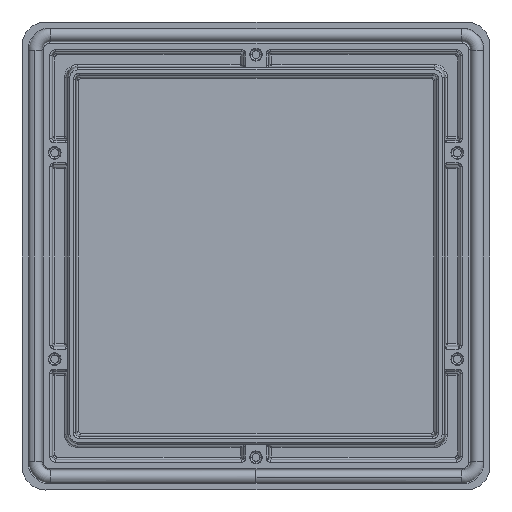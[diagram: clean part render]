
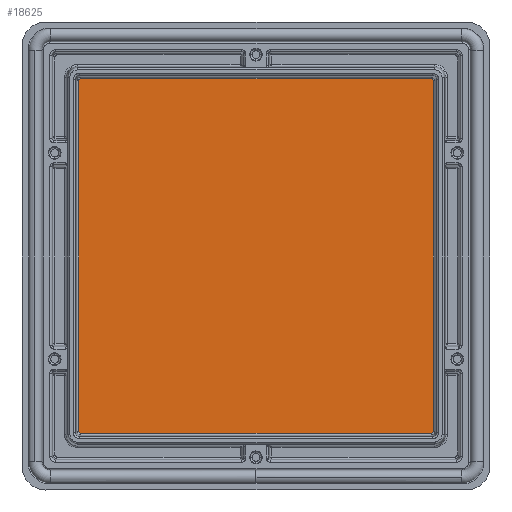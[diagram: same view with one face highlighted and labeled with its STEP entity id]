
A CAD part, front view. The second image highlights one B-rep face of the part: STEP entity #18625.
In plain terms, the highlighted planar face has unit normal (0, -1, 0).
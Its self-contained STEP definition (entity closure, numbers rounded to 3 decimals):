
#8 = CARTESIAN_POINT ( 'NONE',  ( 14.563, 6.5, -103.621 ) ) ;
#448 = CARTESIAN_POINT ( 'NONE',  ( 103.176, 6.5, -14.325 ) ) ;
#737 = DIRECTION ( 'NONE',  ( 0., 0., 1. ) ) ;
#743 = CARTESIAN_POINT ( 'NONE',  ( 14.824, 6.5, -14.325 ) ) ;
#826 = VERTEX_POINT ( 'NONE', #16742 ) ;
#874 = CARTESIAN_POINT ( 'NONE',  ( 14.657, 6.5, -14.353 ) ) ;
#875 = CARTESIAN_POINT ( 'NONE',  ( 103.574, 6.5, -14.521 ) ) ;
#956 = CARTESIAN_POINT ( 'NONE',  ( 7.025, 6.5, -7.025 ) ) ;
#1137 = VECTOR ( 'NONE', #737, 1000. ) ;
#1405 = VERTEX_POINT ( 'NONE', #5824 ) ;
#1461 = CARTESIAN_POINT ( 'NONE',  ( 14.325, 6.5, -103.307 ) ) ;
#1619 = LINE ( 'NONE', #11067, #1137 ) ;
#1678 = FACE_OUTER_BOUND ( 'NONE', #12616, .T. ) ;
#2100 = VERTEX_POINT ( 'NONE', #9511 ) ;
#2282 = CARTESIAN_POINT ( 'NONE',  ( 103.675, 6.5, -14.792 ) ) ;
#2342 = DIRECTION ( 'NONE',  ( 1., 0., 0. ) ) ;
#2358 = CARTESIAN_POINT ( 'NONE',  ( 14.577, 6.5, -14.389 ) ) ;
#2359 = CARTESIAN_POINT ( 'NONE',  ( 103.504, 6.5, -14.446 ) ) ;
#2439 = DIRECTION ( 'NONE',  ( 0., 0., 1. ) ) ;
#3563 = EDGE_CURVE ( 'NONE', #826, #2100, #4912, .T. ) ;
#3848 = CARTESIAN_POINT ( 'NONE',  ( 14.496, 6.5, -14.446 ) ) ;
#3849 = CARTESIAN_POINT ( 'NONE',  ( 103.421, 6.5, -14.387 ) ) ;
#4912 = LINE ( 'NONE', #11187, #12784 ) ;
#5026 = ORIENTED_EDGE ( 'NONE', *, *, #11084, .F. ) ;
#5081 = CARTESIAN_POINT ( 'NONE',  ( 103.675, 6.5, -103.176 ) ) ;
#5130 = VERTEX_POINT ( 'NONE', #10898 ) ;
#5334 = CARTESIAN_POINT ( 'NONE',  ( 14.424, 6.5, -14.523 ) ) ;
#5335 = CARTESIAN_POINT ( 'NONE',  ( 103.3, 6.5, -14.336 ) ) ;
#5722 = VERTEX_POINT ( 'NONE', #18331 ) ;
#5824 = CARTESIAN_POINT ( 'NONE',  ( 103.675, 6.5, -14.824 ) ) ;
#6151 = B_SPLINE_CURVE_WITH_KNOTS ( 'NONE', 3,
 ( #7353, #8846, #8, #10292, #1461, #11795 ),
 .UNSPECIFIED., .F., .F.,
 ( 4, 2, 4 ),
 ( 0., 0.5, 1. ),
 .UNSPECIFIED. ) ;
#6477 = B_SPLINE_CURVE_WITH_KNOTS ( 'NONE', 3,
 ( #11141, #2282, #15607, #6739, #17127, #8235, #18592, #9713, #875, #11200, #2359, #12689, #3849, #14175, #5335, #15676, #6806 ),
 .UNSPECIFIED., .F., .F.,
 ( 4, 1, 2, 2, 2, 2, 2, 2, 4 ),
 ( 0., 0.125, 0.187, 0.25, 0.375, 0.5, 0.625, 0.75, 1. ),
 .UNSPECIFIED. ) ;
#6551 = CARTESIAN_POINT ( 'NONE',  ( 103.675, 6.5, -103.307 ) ) ;
#6709 = EDGE_CURVE ( 'NONE', #826, #5130, #6151, .T. ) ;
#6739 = CARTESIAN_POINT ( 'NONE',  ( 103.66, 6.5, -14.699 ) ) ;
#6805 = CARTESIAN_POINT ( 'NONE',  ( 14.371, 6.5, -14.61 ) ) ;
#6806 = CARTESIAN_POINT ( 'NONE',  ( 103.176, 6.5, -14.325 ) ) ;
#7276 = B_SPLINE_CURVE_WITH_KNOTS ( 'NONE', 3,
 ( #5081, #6551, #16930, #8051, #18398, #9529 ),
 .UNSPECIFIED., .F., .F.,
 ( 4, 2, 4 ),
 ( 0., 0.5, 1. ),
 .UNSPECIFIED. ) ;
#7353 = CARTESIAN_POINT ( 'NONE',  ( 14.824, 6.5, -103.675 ) ) ;
#7403 = CARTESIAN_POINT ( 'NONE',  ( 14.325, 6.5, -7.025 ) ) ;
#7752 = VECTOR ( 'NONE', #10413, 1000. ) ;
#8051 = CARTESIAN_POINT ( 'NONE',  ( 103.437, 6.5, -103.621 ) ) ;
#8213 = LINE ( 'NONE', #7403, #7752 ) ;
#8234 = CARTESIAN_POINT ( 'NONE',  ( 14.745, 6.5, -14.329 ) ) ;
#8235 = CARTESIAN_POINT ( 'NONE',  ( 103.647, 6.5, -14.657 ) ) ;
#8302 = CARTESIAN_POINT ( 'NONE',  ( 14.325, 6.5, -14.761 ) ) ;
#8332 = CARTESIAN_POINT ( 'NONE',  ( 7.025, 6.5, -14.325 ) ) ;
#8569 = VERTEX_POINT ( 'NONE', #18297 ) ;
#8828 = EDGE_CURVE ( 'NONE', #18463, #15131, #18316, .T. ) ;
#8846 = CARTESIAN_POINT ( 'NONE',  ( 14.693, 6.5, -103.675 ) ) ;
#8959 = CARTESIAN_POINT ( 'NONE',  ( 14.824, 6.5, -14.325 ) ) ;
#9511 = CARTESIAN_POINT ( 'NONE',  ( 103.176, 6.5, -103.675 ) ) ;
#9529 = CARTESIAN_POINT ( 'NONE',  ( 103.176, 6.5, -103.675 ) ) ;
#9587 = CARTESIAN_POINT ( 'NONE',  ( 14.792, 6.5, -14.325 ) ) ;
#9712 = CARTESIAN_POINT ( 'NONE',  ( 14.669, 6.5, -14.349 ) ) ;
#9713 = CARTESIAN_POINT ( 'NONE',  ( 103.611, 6.5, -14.577 ) ) ;
#9950 = ORIENTED_EDGE ( 'NONE', *, *, #15008, .T. ) ;
#10096 = ORIENTED_EDGE ( 'NONE', *, *, #19092, .T. ) ;
#10292 = CARTESIAN_POINT ( 'NONE',  ( 14.379, 6.5, -103.437 ) ) ;
#10413 = DIRECTION ( 'NONE',  ( 0., 0., -1. ) ) ;
#10435 = VECTOR ( 'NONE', #15764, 1000. ) ;
#10883 = ORIENTED_EDGE ( 'NONE', *, *, #8828, .T. ) ;
#10898 = CARTESIAN_POINT ( 'NONE',  ( 14.325, 6.5, -103.176 ) ) ;
#11067 = CARTESIAN_POINT ( 'NONE',  ( 103.675, 6.5, -7.025 ) ) ;
#11084 = EDGE_CURVE ( 'NONE', #8569, #2100, #7276, .T. ) ;
#11141 = CARTESIAN_POINT ( 'NONE',  ( 103.675, 6.5, -14.824 ) ) ;
#11187 = CARTESIAN_POINT ( 'NONE',  ( 7.025, 6.5, -103.675 ) ) ;
#11199 = CARTESIAN_POINT ( 'NONE',  ( 14.607, 6.5, -14.373 ) ) ;
#11200 = CARTESIAN_POINT ( 'NONE',  ( 103.554, 6.5, -14.496 ) ) ;
#11283 = DIRECTION ( 'NONE',  ( 0., 1., 0. ) ) ;
#11795 = CARTESIAN_POINT ( 'NONE',  ( 14.325, 6.5, -103.176 ) ) ;
#12205 = AXIS2_PLACEMENT_3D ( 'NONE', #956, #11283, #2439 ) ;
#12616 = EDGE_LOOP ( 'NONE', ( #9950, #15663, #10883, #10096, #14308, #13350, #18255, #5026 ) ) ;
#12688 = CARTESIAN_POINT ( 'NONE',  ( 14.521, 6.5, -14.426 ) ) ;
#12689 = CARTESIAN_POINT ( 'NONE',  ( 103.477, 6.5, -14.424 ) ) ;
#12706 = PLANE ( 'NONE',  #12205 ) ;
#12784 = VECTOR ( 'NONE', #2342, 1000. ) ;
#13350 = ORIENTED_EDGE ( 'NONE', *, *, #6709, .F. ) ;
#13995 = EDGE_CURVE ( 'NONE', #1405, #18463, #6477, .T. ) ;
#14174 = CARTESIAN_POINT ( 'NONE',  ( 14.446, 6.5, -14.496 ) ) ;
#14175 = CARTESIAN_POINT ( 'NONE',  ( 103.39, 6.5, -14.371 ) ) ;
#14308 = ORIENTED_EDGE ( 'NONE', *, *, #17830, .T. ) ;
#15008 = EDGE_CURVE ( 'NONE', #8569, #1405, #1619, .T. ) ;
#15131 = VERTEX_POINT ( 'NONE', #8959 ) ;
#15607 = CARTESIAN_POINT ( 'NONE',  ( 103.671, 6.5, -14.745 ) ) ;
#15663 = ORIENTED_EDGE ( 'NONE', *, *, #13995, .T. ) ;
#15675 = CARTESIAN_POINT ( 'NONE',  ( 14.387, 6.5, -14.579 ) ) ;
#15676 = CARTESIAN_POINT ( 'NONE',  ( 103.239, 6.5, -14.325 ) ) ;
#15764 = DIRECTION ( 'NONE',  ( -1., 0., 0. ) ) ;
#16742 = CARTESIAN_POINT ( 'NONE',  ( 14.824, 6.5, -103.675 ) ) ;
#16780 = B_SPLINE_CURVE_WITH_KNOTS ( 'NONE', 3,
 ( #743, #9587, #8234, #18591, #9712, #874, #11199, #2358, #12688, #3848, #14174, #5334, #15675, #6805, #17194, #8302, #18656 ),
 .UNSPECIFIED., .F., .F.,
 ( 4, 1, 2, 2, 2, 2, 2, 2, 4 ),
 ( 0., 0.125, 0.188, 0.25, 0.375, 0.5, 0.625, 0.75, 1. ),
 .UNSPECIFIED. ) ;
#16930 = CARTESIAN_POINT ( 'NONE',  ( 103.621, 6.5, -103.437 ) ) ;
#17127 = CARTESIAN_POINT ( 'NONE',  ( 103.651, 6.5, -14.669 ) ) ;
#17194 = CARTESIAN_POINT ( 'NONE',  ( 14.336, 6.5, -14.7 ) ) ;
#17830 = EDGE_CURVE ( 'NONE', #5722, #5130, #8213, .T. ) ;
#18255 = ORIENTED_EDGE ( 'NONE', *, *, #3563, .T. ) ;
#18297 = CARTESIAN_POINT ( 'NONE',  ( 103.675, 6.5, -103.176 ) ) ;
#18316 = LINE ( 'NONE', #8332, #10435 ) ;
#18331 = CARTESIAN_POINT ( 'NONE',  ( 14.325, 6.5, -14.824 ) ) ;
#18398 = CARTESIAN_POINT ( 'NONE',  ( 103.307, 6.5, -103.675 ) ) ;
#18463 = VERTEX_POINT ( 'NONE', #448 ) ;
#18591 = CARTESIAN_POINT ( 'NONE',  ( 14.699, 6.5, -14.34 ) ) ;
#18592 = CARTESIAN_POINT ( 'NONE',  ( 103.627, 6.5, -14.607 ) ) ;
#18625 = ADVANCED_FACE ( 'NONE', ( #1678 ), #12706, .F. ) ;
#18656 = CARTESIAN_POINT ( 'NONE',  ( 14.325, 6.5, -14.824 ) ) ;
#19092 = EDGE_CURVE ( 'NONE', #15131, #5722, #16780, .T. ) ;
